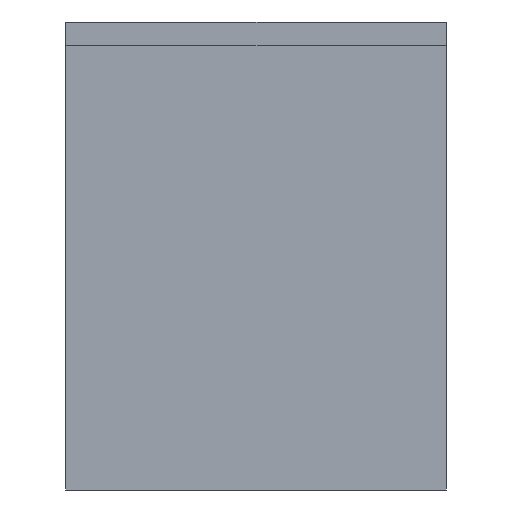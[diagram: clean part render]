
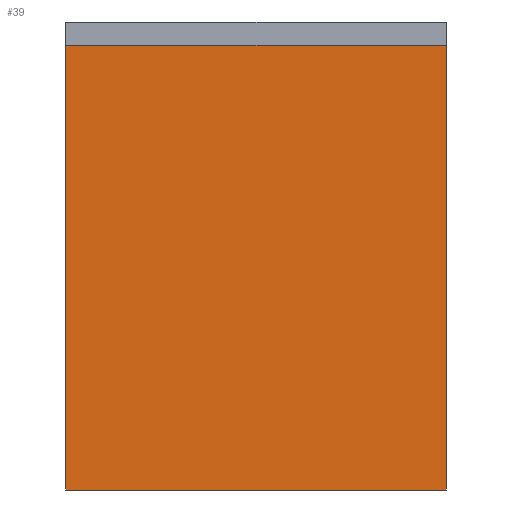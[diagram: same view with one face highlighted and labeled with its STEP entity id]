
A CAD part, left-side view. The second image highlights one B-rep face of the part: STEP entity #39.
In plain terms, the highlighted planar face has unit normal (-1, 0, 0).
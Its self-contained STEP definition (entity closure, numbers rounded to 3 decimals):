
#39 = ADVANCED_FACE('',(#40),#54,.F.);
#40 = FACE_BOUND('',#41,.F.);
#41 = EDGE_LOOP('',(#42,#77,#105,#133));
#42 = ORIENTED_EDGE('',*,*,#43,.F.);
#43 = EDGE_CURVE('',#44,#46,#48,.T.);
#44 = VERTEX_POINT('',#45);
#45 = CARTESIAN_POINT('',(-120.,-32.5,0.));
#46 = VERTEX_POINT('',#47);
#47 = CARTESIAN_POINT('',(-120.,-32.5,76.));
#48 = SURFACE_CURVE('',#49,(#53,#65),.PCURVE_S1.);
#49 = LINE('',#50,#51);
#50 = CARTESIAN_POINT('',(-120.,-32.5,0.));
#51 = VECTOR('',#52,1.);
#52 = DIRECTION('',(0.,0.,1.));
#53 = PCURVE('',#54,#59);
#54 = PLANE('',#55);
#55 = AXIS2_PLACEMENT_3D('',#56,#57,#58);
#56 = CARTESIAN_POINT('',(-120.,-32.5,0.));
#57 = DIRECTION('',(1.,0.,0.));
#58 = DIRECTION('',(0.,0.,1.));
#59 = DEFINITIONAL_REPRESENTATION('',(#60),#64);
#60 = LINE('',#61,#62);
#61 = CARTESIAN_POINT('',(0.,0.));
#62 = VECTOR('',#63,1.);
#63 = DIRECTION('',(1.,0.));
#64 = ( GEOMETRIC_REPRESENTATION_CONTEXT(2) 
PARAMETRIC_REPRESENTATION_CONTEXT() REPRESENTATION_CONTEXT('2D SPACE',''
  ) );
#65 = PCURVE('',#66,#71);
#66 = PLANE('',#67);
#67 = AXIS2_PLACEMENT_3D('',#68,#69,#70);
#68 = CARTESIAN_POINT('',(-120.,-32.5,0.));
#69 = DIRECTION('',(0.,1.,0.));
#70 = DIRECTION('',(0.,-0.,1.));
#71 = DEFINITIONAL_REPRESENTATION('',(#72),#76);
#72 = LINE('',#73,#74);
#73 = CARTESIAN_POINT('',(0.,0.));
#74 = VECTOR('',#75,1.);
#75 = DIRECTION('',(1.,0.));
#76 = ( GEOMETRIC_REPRESENTATION_CONTEXT(2) 
PARAMETRIC_REPRESENTATION_CONTEXT() REPRESENTATION_CONTEXT('2D SPACE',''
  ) );
#77 = ORIENTED_EDGE('',*,*,#78,.T.);
#78 = EDGE_CURVE('',#44,#79,#81,.T.);
#79 = VERTEX_POINT('',#80);
#80 = CARTESIAN_POINT('',(-120.,32.5,0.));
#81 = SURFACE_CURVE('',#82,(#86,#93),.PCURVE_S1.);
#82 = LINE('',#83,#84);
#83 = CARTESIAN_POINT('',(-120.,-32.5,0.));
#84 = VECTOR('',#85,1.);
#85 = DIRECTION('',(0.,1.,0.));
#86 = PCURVE('',#54,#87);
#87 = DEFINITIONAL_REPRESENTATION('',(#88),#92);
#88 = LINE('',#89,#90);
#89 = CARTESIAN_POINT('',(0.,0.));
#90 = VECTOR('',#91,1.);
#91 = DIRECTION('',(0.,-1.));
#92 = ( GEOMETRIC_REPRESENTATION_CONTEXT(2) 
PARAMETRIC_REPRESENTATION_CONTEXT() REPRESENTATION_CONTEXT('2D SPACE',''
  ) );
#93 = PCURVE('',#94,#99);
#94 = PLANE('',#95);
#95 = AXIS2_PLACEMENT_3D('',#96,#97,#98);
#96 = CARTESIAN_POINT('',(-120.,-32.5,0.));
#97 = DIRECTION('',(0.,0.,1.));
#98 = DIRECTION('',(1.,0.,-0.));
#99 = DEFINITIONAL_REPRESENTATION('',(#100),#104);
#100 = LINE('',#101,#102);
#101 = CARTESIAN_POINT('',(0.,0.));
#102 = VECTOR('',#103,1.);
#103 = DIRECTION('',(0.,1.));
#104 = ( GEOMETRIC_REPRESENTATION_CONTEXT(2) 
PARAMETRIC_REPRESENTATION_CONTEXT() REPRESENTATION_CONTEXT('2D SPACE',''
  ) );
#105 = ORIENTED_EDGE('',*,*,#106,.T.);
#106 = EDGE_CURVE('',#79,#107,#109,.T.);
#107 = VERTEX_POINT('',#108);
#108 = CARTESIAN_POINT('',(-120.,32.5,76.));
#109 = SURFACE_CURVE('',#110,(#114,#121),.PCURVE_S1.);
#110 = LINE('',#111,#112);
#111 = CARTESIAN_POINT('',(-120.,32.5,0.));
#112 = VECTOR('',#113,1.);
#113 = DIRECTION('',(0.,0.,1.));
#114 = PCURVE('',#54,#115);
#115 = DEFINITIONAL_REPRESENTATION('',(#116),#120);
#116 = LINE('',#117,#118);
#117 = CARTESIAN_POINT('',(0.,-65.));
#118 = VECTOR('',#119,1.);
#119 = DIRECTION('',(1.,0.));
#120 = ( GEOMETRIC_REPRESENTATION_CONTEXT(2) 
PARAMETRIC_REPRESENTATION_CONTEXT() REPRESENTATION_CONTEXT('2D SPACE',''
  ) );
#121 = PCURVE('',#122,#127);
#122 = PLANE('',#123);
#123 = AXIS2_PLACEMENT_3D('',#124,#125,#126);
#124 = CARTESIAN_POINT('',(-120.,32.5,0.));
#125 = DIRECTION('',(0.,1.,0.));
#126 = DIRECTION('',(0.,-0.,1.));
#127 = DEFINITIONAL_REPRESENTATION('',(#128),#132);
#128 = LINE('',#129,#130);
#129 = CARTESIAN_POINT('',(0.,0.));
#130 = VECTOR('',#131,1.);
#131 = DIRECTION('',(1.,0.));
#132 = ( GEOMETRIC_REPRESENTATION_CONTEXT(2) 
PARAMETRIC_REPRESENTATION_CONTEXT() REPRESENTATION_CONTEXT('2D SPACE',''
  ) );
#133 = ORIENTED_EDGE('',*,*,#134,.F.);
#134 = EDGE_CURVE('',#46,#107,#135,.T.);
#135 = SURFACE_CURVE('',#136,(#140,#147),.PCURVE_S1.);
#136 = LINE('',#137,#138);
#137 = CARTESIAN_POINT('',(-120.,-32.5,76.));
#138 = VECTOR('',#139,1.);
#139 = DIRECTION('',(0.,1.,0.));
#140 = PCURVE('',#54,#141);
#141 = DEFINITIONAL_REPRESENTATION('',(#142),#146);
#142 = LINE('',#143,#144);
#143 = CARTESIAN_POINT('',(76.,0.));
#144 = VECTOR('',#145,1.);
#145 = DIRECTION('',(0.,-1.));
#146 = ( GEOMETRIC_REPRESENTATION_CONTEXT(2) 
PARAMETRIC_REPRESENTATION_CONTEXT() REPRESENTATION_CONTEXT('2D SPACE',''
  ) );
#147 = PCURVE('',#148,#153);
#148 = PLANE('',#149);
#149 = AXIS2_PLACEMENT_3D('',#150,#151,#152);
#150 = CARTESIAN_POINT('',(-120.,-32.5,76.));
#151 = DIRECTION('',(0.,0.,1.));
#152 = DIRECTION('',(1.,0.,-0.));
#153 = DEFINITIONAL_REPRESENTATION('',(#154),#158);
#154 = LINE('',#155,#156);
#155 = CARTESIAN_POINT('',(0.,0.));
#156 = VECTOR('',#157,1.);
#157 = DIRECTION('',(0.,1.));
#158 = ( GEOMETRIC_REPRESENTATION_CONTEXT(2) 
PARAMETRIC_REPRESENTATION_CONTEXT() REPRESENTATION_CONTEXT('2D SPACE',''
  ) );
